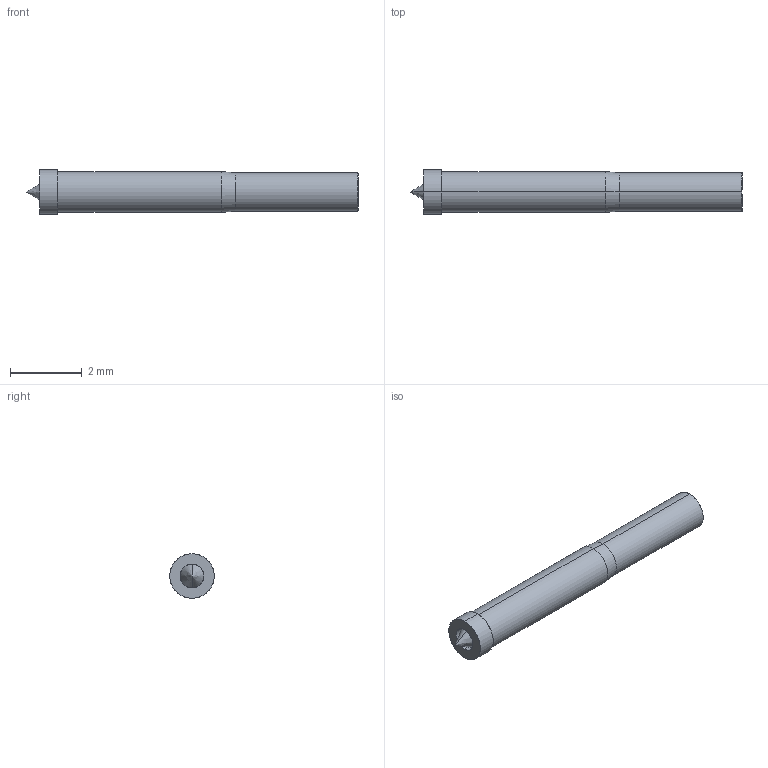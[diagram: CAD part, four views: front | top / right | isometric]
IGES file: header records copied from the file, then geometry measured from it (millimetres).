
Start section: SolidWorks IGES file using analytic representation for surfaces
Global section: file name: O:\PYLON\IGES FILES\C-S\C-S-C REC'D.IGS; native system: SolidWorks 2015; preprocessor: SolidWorks 2015; author: kgolden; date: 171024.080624; units: inch
Bounding box: 9.27 x 1.24 x 1.24 mm (x, y, z)
Surface area: 38.6 mm2 (no closed solid volume)
Topology: 0 solids, 0 shells, 18 faces, 168 edges, 166 vertices
Faces by surface type: revolution 14, bspline 4
